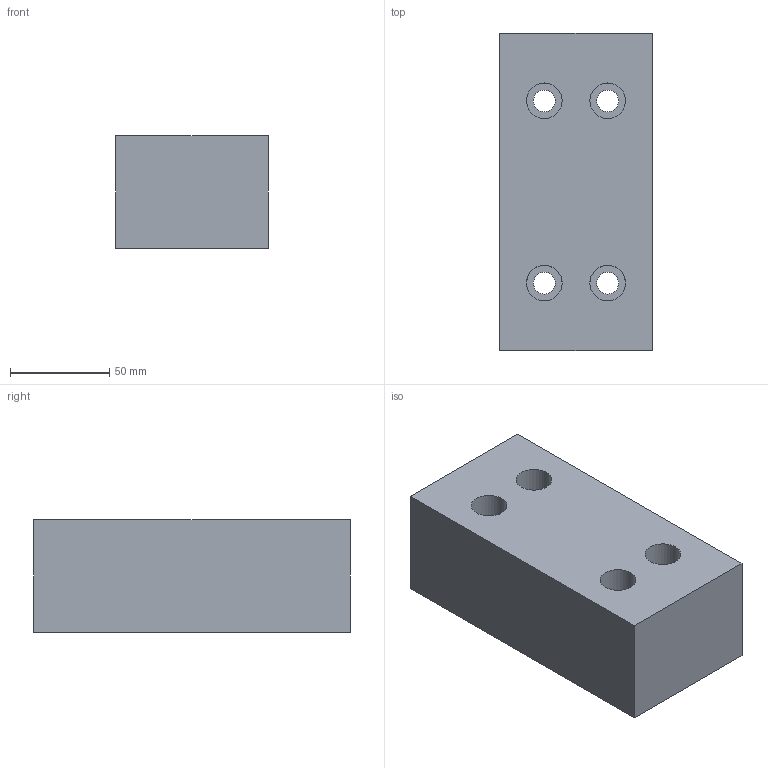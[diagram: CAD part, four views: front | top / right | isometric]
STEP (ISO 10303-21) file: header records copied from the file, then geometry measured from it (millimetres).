
FILE_DESCRIPTION (( 'STEP AP203' ), '1' );
FILE_NAME ('682450-57-a-Kundenmodell.STEP', '2020-10-05T14:02:53', ( '' ), ( '' ), 'SwSTEP 2.0', 'SolidWorks 2018', '' );
FILE_SCHEMA (( 'CONFIG_CONTROL_DESIGN' ));
Length unit declared in the file: millimetre
Products named in the file (2): 682450-57-a-Kundenmodell
Bounding box: 77 x 160 x 57 mm (x, y, z)
Volume: 624953.9 mm3; surface area: 63768.5 mm2
Topology: 1 solids, 1 shells, 59 faces, 136 edges, 84 vertices
Faces by surface type: plane 27, cylinder 20, cone 12
Full cylindrical faces by diameter (mm): 11 x4, 18 x4
Entity records: 1801 total; most frequent: CARTESIAN_POINT 297, DIRECTION 294, ORIENTED_EDGE 256, EDGE_CURVE 128, AXIS2_PLACEMENT_3D 113, VERTEX_POINT 84, EDGE_LOOP 80, VECTOR 68
